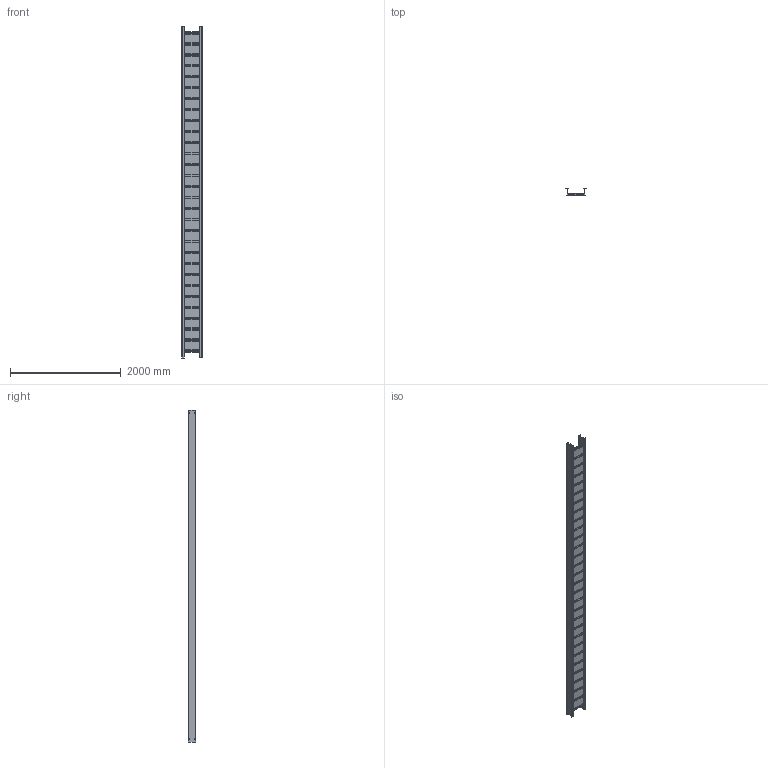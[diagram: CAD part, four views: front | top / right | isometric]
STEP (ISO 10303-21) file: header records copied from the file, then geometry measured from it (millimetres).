
FILE_DESCRIPTION((''),'2;1');
FILE_NAME('AH2512L06-6_ASM','2010-02-05T',('erouzier'),(''),'PRO/ENGINEER BY PARAMETRIC TECHNOLOGY CORPORATION, 2008510','PRO/ENGINEER BY PARAMETRIC TECHNOLOGY CORPORATION, 2008510','');
FILE_SCHEMA(('CONFIG_CONTROL_DESIGN'));
Length unit declared in the file: inch
Products named in the file (28): CDS001451-017_AF3; CDS001451-017_AF4; CDS002159L12-P_AF0; CDS002159L12-P_AF1; CDS002159L12-P_AF2; CDS002159L12-P_AF3; CDS002159L12-P_AF4; CDS002159L12-P_AF5; CDS002159L12-P_AF6; CDS002159L12-P_AF7; CDS002159L12-P_AF8; CDS002159L12-P_AF9; CDS002159L12-P_AF10; CDS002159L12-P_AF11; CDS002159L12-P_AF12; CDS002159L12-P; CDS002159L12-P_AF13; CDS002159L12-P_AF14; CDS002159L12-P_AF15; CDS002159L12-P_AF16; CDS002159L12-P_AF17; CDS002159L12-P_AF18; CDS002159L12-P_AF19; CDS002159L12-P_AF20; CDS002159L12-P_AF21; CDS002159L12-P_AF22; CDS002159L12-P_AF23; AH2512L06-6_ASM
Assembly tree (32 placements, depth 2):
  AH2512L06-6_ASM
    CDS001451-017_AF3
    CDS001451-017_AF4
    CDS002159L12-P_AF0
    CDS002159L12-P_AF1
    CDS002159L12-P_AF2
    CDS002159L12-P_AF3
    CDS002159L12-P_AF4
    CDS002159L12-P_AF5
    CDS002159L12-P_AF6
    CDS002159L12-P_AF7
    CDS002159L12-P_AF8
    CDS002159L12-P_AF9
    CDS002159L12-P_AF10
    CDS002159L12-P_AF11
    CDS002159L12-P_AF12
    CDS002159L12-P  x6
    CDS002159L12-P_AF13
    CDS002159L12-P_AF14
    CDS002159L12-P_AF15
    CDS002159L12-P_AF16
    CDS002159L12-P_AF17
    CDS002159L12-P_AF18
    CDS002159L12-P_AF19
    CDS002159L12-P_AF20
    CDS002159L12-P_AF21
    CDS002159L12-P_AF22
    CDS002159L12-P_AF23
Bounding box: 365.76 x 127.89 x 6000 mm (x, y, z)
Volume: 6288985.2 mm3; surface area: 8929508.3 mm2
Topology: 32 solids, 33 shells, 3381 faces, 9952 edges, 6636 vertices
Faces by surface type: plane 1847, cylinder 1534
Entity records: 96482 total; most frequent: CARTESIAN_POINT 16779, DIRECTION 16672, ORIENTED_EDGE 16660, EDGE_CURVE 8332, VECTOR 5774, LINE 5774, VERTEX_POINT 5556, AXIS2_PLACEMENT_3D 5449
